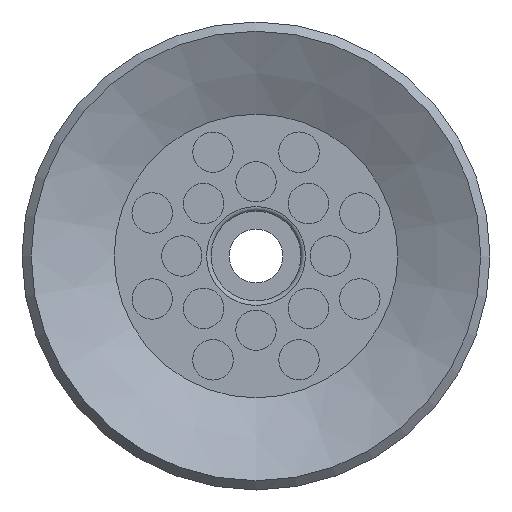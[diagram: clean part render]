
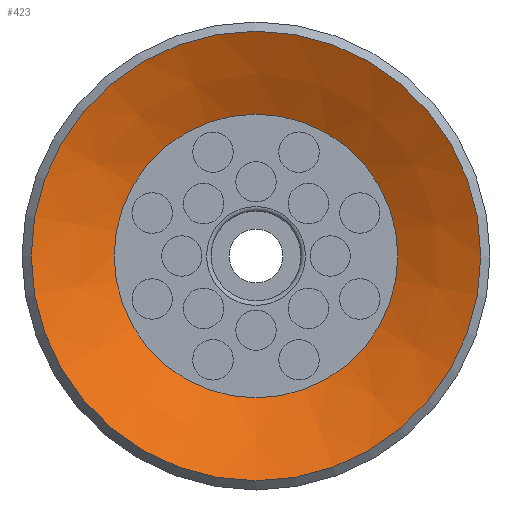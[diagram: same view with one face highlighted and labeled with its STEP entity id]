
A CAD part, front view. The second image highlights one B-rep face of the part: STEP entity #423.
In plain terms, the highlighted conical face has half-angle 64 degrees and reference radius 5 mm.
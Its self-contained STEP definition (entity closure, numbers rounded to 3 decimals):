
#423=ADVANCED_FACE('',(#870,#871),#872,.F.);
#870=FACE_BOUND('',#1458,.T.);
#871=FACE_OUTER_BOUND('',#1459,.T.);
#872=CONICAL_SURFACE('',#1460,5.0,1.117);
#1458=EDGE_LOOP('',(#2019));
#1459=EDGE_LOOP('',(#2020));
#1460=AXIS2_PLACEMENT_3D('',#2021,#2022,#2023);
#2019=ORIENTED_EDGE('',*,*,#2355,.T.);
#2020=ORIENTED_EDGE('',*,*,#2357,.F.);
#2021=CARTESIAN_POINT('',(0.0,0.,0.));
#2022=DIRECTION('',(0.0,0.,-1.0));
#2023=DIRECTION('',(0.0,1.0,0.));
#2355=EDGE_CURVE('',#2513,#2513,#2514,.T.);
#2357=EDGE_CURVE('',#2516,#2516,#2517,.T.);
#2513=VERTEX_POINT('',#2704);
#2514=CIRCLE('',#2705,3.155);
#2516=VERTEX_POINT('',#2707);
#2517=CIRCLE('',#2708,5.0);
#2704=CARTESIAN_POINT('',(0.0,-3.155,0.9));
#2705=AXIS2_PLACEMENT_3D('',#2873,#2874,#2875);
#2707=CARTESIAN_POINT('',(0.0,-5.0,0.));
#2708=AXIS2_PLACEMENT_3D('',#2876,#2877,#2878);
#2873=CARTESIAN_POINT('',(0.0,0.,0.9));
#2874=DIRECTION('',(0.0,0.,1.0));
#2875=DIRECTION('',(0.0,-1.0,0.));
#2876=CARTESIAN_POINT('',(0.0,0.,0.));
#2877=DIRECTION('',(0.0,0.,1.0));
#2878=DIRECTION('',(0.0,-1.0,0.));
